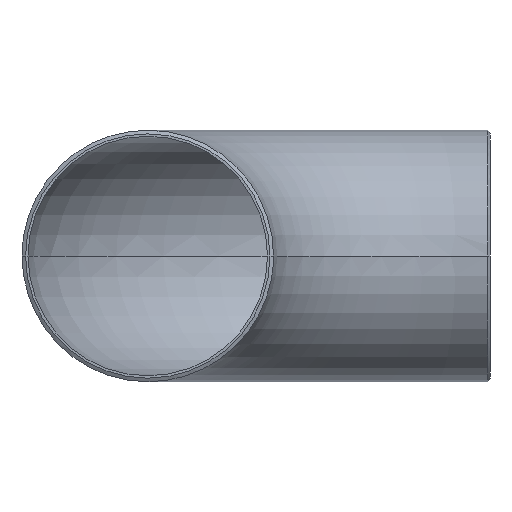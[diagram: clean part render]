
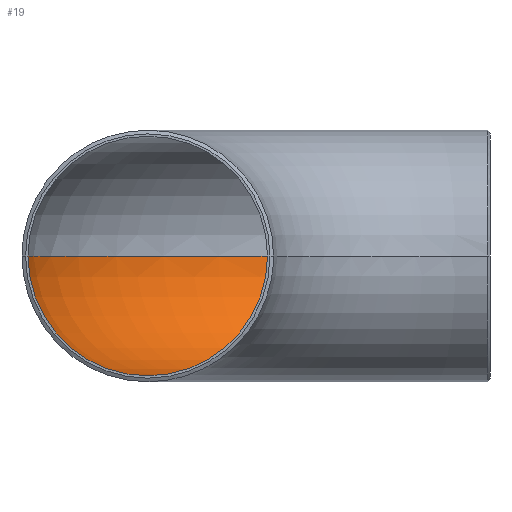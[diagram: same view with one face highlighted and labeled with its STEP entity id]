
A CAD part, front view. The second image highlights one B-rep face of the part: STEP entity #19.
In plain terms, the highlighted toroidal (fillet/blend) face has major radius 229 mm and minor radius 80.15 mm.
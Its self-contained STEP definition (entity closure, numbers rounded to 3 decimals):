
#7 = ORIENTED_EDGE ( 'NONE', *, *, #20, .F. ) ;
#19 = ADVANCED_FACE ( 'NONE', ( #458 ), #205, .F. ) ;
#20 = EDGE_CURVE ( 'NONE', #378, #246, #582, .T. ) ;
#24 = DIRECTION ( 'NONE',  ( 0., 1., 0. ) ) ;
#33 = DIRECTION ( 'NONE',  ( 0., 0., 1. ) ) ;
#48 = CARTESIAN_POINT ( 'NONE',  ( 229., 0., 0. ) ) ;
#60 = EDGE_CURVE ( 'NONE', #246, #494, #310, .T. ) ;
#101 = DIRECTION ( 'NONE',  ( 1., 0., 0. ) ) ;
#107 = CARTESIAN_POINT ( 'NONE',  ( 229., 0., 0. ) ) ;
#110 = CARTESIAN_POINT ( 'NONE',  ( 229., 229., 0. ) ) ;
#137 = DIRECTION ( 'NONE',  ( 1., 0., 0. ) ) ;
#148 = ORIENTED_EDGE ( 'NONE', *, *, #397, .T. ) ;
#149 = CIRCLE ( 'NONE', #348, 309.15 ) ;
#152 = DIRECTION ( 'NONE',  ( 0., 1., 0. ) ) ;
#156 = CARTESIAN_POINT ( 'NONE',  ( 80.15, 0., 0. ) ) ;
#205 = TOROIDAL_SURFACE ( 'NONE', #560, 229., 80.15 ) ;
#210 = CARTESIAN_POINT ( 'NONE',  ( 229., 309.15, 0. ) ) ;
#246 = VERTEX_POINT ( 'NONE', #156 ) ;
#254 = DIRECTION ( 'NONE',  ( 0., 0., 1. ) ) ;
#294 = AXIS2_PLACEMENT_3D ( 'NONE', #110, #445, #24 ) ;
#303 = EDGE_LOOP ( 'NONE', ( #148, #346, #422, #7 ) ) ;
#310 = CIRCLE ( 'NONE', #597, 80.15 ) ;
#311 = CARTESIAN_POINT ( 'NONE',  ( -80.15, 0., 0. ) ) ;
#319 = CARTESIAN_POINT ( 'NONE',  ( 229., 0., 0. ) ) ;
#346 = ORIENTED_EDGE ( 'NONE', *, *, #409, .T. ) ;
#348 = AXIS2_PLACEMENT_3D ( 'NONE', #107, #396, #554 ) ;
#378 = VERTEX_POINT ( 'NONE', #544 ) ;
#393 = VERTEX_POINT ( 'NONE', #210 ) ;
#396 = DIRECTION ( 'NONE',  ( 0., 0., 1. ) ) ;
#397 = EDGE_CURVE ( 'NONE', #378, #393, #548, .T. ) ;
#398 = CARTESIAN_POINT ( 'NONE',  ( 0., 0., 0. ) ) ;
#406 = DIRECTION ( 'NONE',  ( 0., 0., 1. ) ) ;
#409 = EDGE_CURVE ( 'NONE', #393, #494, #149, .T. ) ;
#422 = ORIENTED_EDGE ( 'NONE', *, *, #60, .F. ) ;
#445 = DIRECTION ( 'NONE',  ( 1., 0., 0. ) ) ;
#458 = FACE_OUTER_BOUND ( 'NONE', #303, .T. ) ;
#494 = VERTEX_POINT ( 'NONE', #311 ) ;
#531 = AXIS2_PLACEMENT_3D ( 'NONE', #48, #33, #101 ) ;
#544 = CARTESIAN_POINT ( 'NONE',  ( 229., 148.85, 0. ) ) ;
#548 = CIRCLE ( 'NONE', #294, 80.15 ) ;
#554 = DIRECTION ( 'NONE',  ( 1., 0., 0. ) ) ;
#560 = AXIS2_PLACEMENT_3D ( 'NONE', #319, #406, #137 ) ;
#582 = CIRCLE ( 'NONE', #531, 148.85 ) ;
#597 = AXIS2_PLACEMENT_3D ( 'NONE', #398, #152, #254 ) ;
